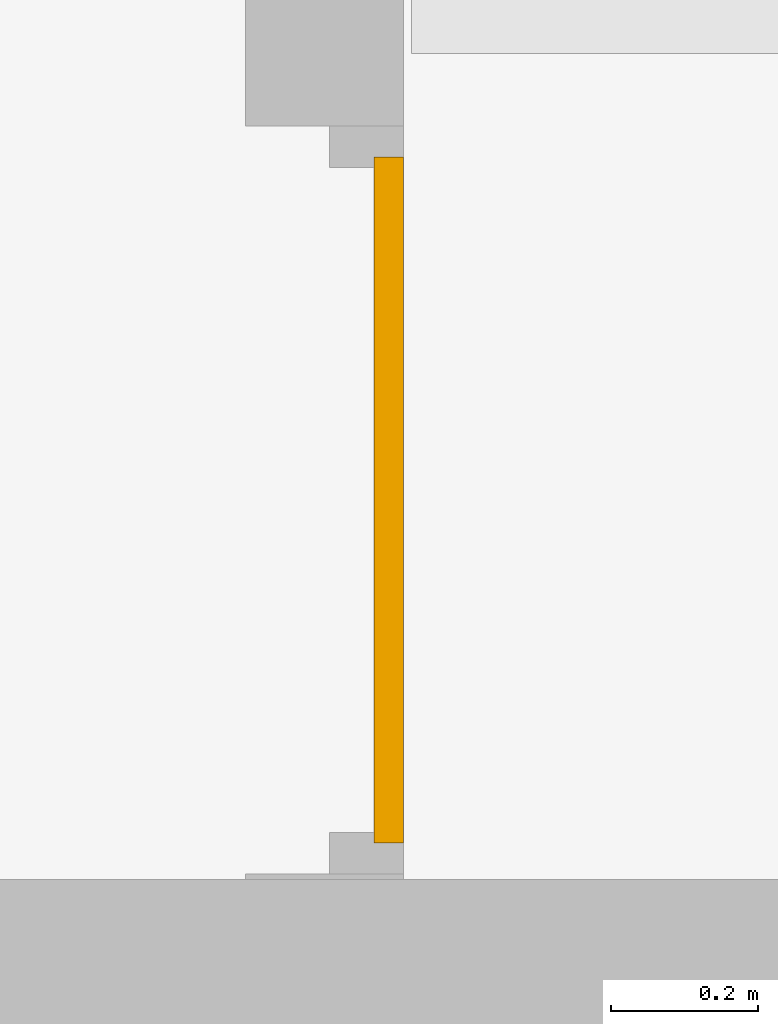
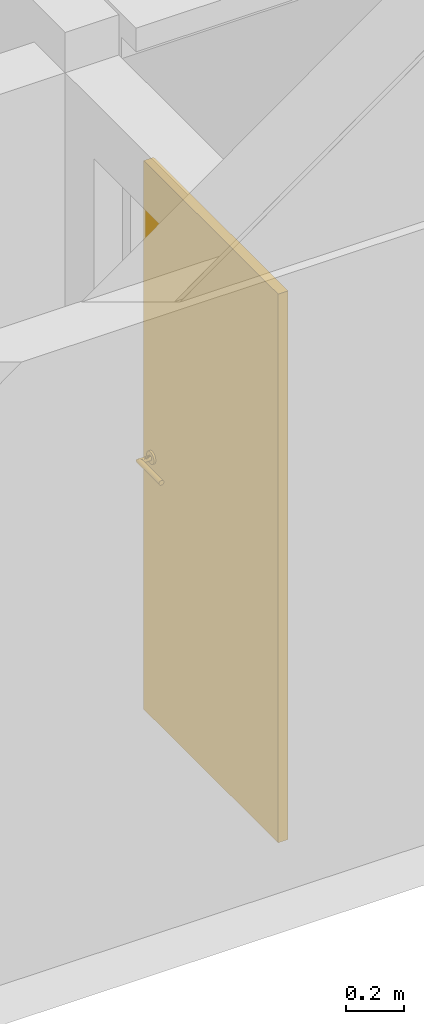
# One storey, part 11 of 22: 1 door.
"""IFC2X3 building model written with IfcOpenShell, lengths in millimetres."""

from ifc_helpers import new_model, entity, si_unit, converted_unit, derived_unit, money_unit, direction, frame, origin_with_axes, place, context, subcontext, project, spatial, faceted_brep, source, transform, mapped, material, type_object, type_shapes, element, save


model = new_model("IFC2X3")

# Units and contexts
model_context = context("Model", 3, precision=0.01, world=origin_with_axes(), true_north=direction((0.0, 1.0)))
body_context = subcontext(model_context, "Body", "Model", "MODEL_VIEW")
ifc_project = project(units=[si_unit("LENGTHUNIT", "METRE", prefix="MILLI"), si_unit("AREAUNIT", "SQUARE_METRE"), si_unit("VOLUMEUNIT", "CUBIC_METRE"), converted_unit("PLANEANGLEUNIT", "DEGREE", entity("IfcPlaneAngleMeasure", 0.0174532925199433), si_unit("PLANEANGLEUNIT", "RADIAN"), dimensions=[0, 0, 0, 0, 0, 0, 0]), money_unit("EUR"), converted_unit("TIMEUNIT", "Year", entity("IfcTimeMeasure", 31557600.0), si_unit("TIMEUNIT", "SECOND"), dimensions=[0, 0, 1, 0, 0, 0, 0]), si_unit("MASSUNIT", "GRAM", prefix="KILO"), si_unit("THERMODYNAMICTEMPERATUREUNIT", "DEGREE_CELSIUS"), si_unit("LUMINOUSINTENSITYUNIT", "LUMEN"), si_unit("ENERGYUNIT", "JOULE", prefix="MEGA"), derived_unit("THERMALCONDUCTANCEUNIT", [(si_unit("POWERUNIT", "WATT"), 1), (si_unit("LENGTHUNIT", "METRE"), -1), (si_unit("THERMODYNAMICTEMPERATUREUNIT", "KELVIN"), -1)]), derived_unit("SPECIFICHEATCAPACITYUNIT", [(si_unit("ENERGYUNIT", "JOULE"), 1), (si_unit("MASSUNIT", "GRAM", prefix="KILO"), -1), (si_unit("THERMODYNAMICTEMPERATUREUNIT", "KELVIN"), -1)]), derived_unit("MASSDENSITYUNIT", [(si_unit("MASSUNIT", "GRAM", prefix="KILO"), 1), (si_unit("VOLUMEUNIT", "CUBIC_METRE"), -1)])], contexts=[model_context])

# Site, building, storey
site_placement = place(None, origin_with_axes())
site = spatial("IfcSite", under=ifc_project, at=site_placement, Name="Site", CompositionType="ELEMENT")
building_placement = place(site_placement, origin_with_axes())
building = spatial("IfcBuilding", under=site, at=building_placement, Name="Naam gebouw", CompositionType="ELEMENT")
storey_placement = place(building_placement, frame((0.0, 0.0, 11150.0), z_axis=(0.0, 0.0, 1.0), x_axis=(1.0, 0.0, 0.0)))
storey = spatial("IfcBuildingStorey", under=building, at=storey_placement, Name="3e verdieping/dak N", CompositionType="ELEMENT", Elevation=11150.0)

# Door
ifc_material = material(Name="<Unnamed>")
door_style = type_object("IfcDoorStyle", Name="NLRS_32_deur stomp dicht_WID:Deur", ConstructionType="NOTDEFINED", OperationType="NOTDEFINED", ParameterTakesPrecedence=False, Sizeable=False)
shared_shape = source(origin_with_axes(), body_context, "Body", "Brep", [
    faceted_brep([(417.5000000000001, -65.96445239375, 1078.34936490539), (407.58819045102, -65.96445239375, 1090.34074173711), (410.0000000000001, -65.96445239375, 1091.33974596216), (411.4704761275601, -65.96445239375, 1075.85185434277), (410.0000000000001, -74.00000000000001, 1091.33974596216), (407.58819045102, -74.00000000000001, 1090.34074173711), (422.6776695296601, -65.96445239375, 1082.32233047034), (411.4704761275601, -74.00000000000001, 1075.85185434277), (417.5000000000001, -74.00000000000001, 1078.34936490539), (405.0, -65.96445239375, 1090.0), (412.0710678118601, -74.00000000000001, 1092.92893218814), (412.0710678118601, -65.96445239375, 1092.92893218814), (405.0, -74.00000000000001, 1090.0), (422.6776695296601, -74.00000000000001, 1082.32233047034), (405.0, -74.00000000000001, 1075.0), (405.0, -65.96445239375, 1075.0), (413.66025403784, -65.96445239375, 1095.0), (413.66025403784, -74.00000000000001, 1095.0), (402.41180954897, -74.00000000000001, 1090.34074173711), (402.41180954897, -65.96445239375, 1090.34074173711), (426.6506350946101, -65.96445239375, 1087.5), (426.6506350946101, -74.00000000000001, 1087.5), (398.52952387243, -74.00000000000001, 1075.85185434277), (398.52952387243, -65.96445239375, 1075.85185434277), (414.65925826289, -74.00000000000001, 1097.41180954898), (414.65925826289, -65.96445239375, 1097.41180954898), (400.0, -65.96445239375, 1091.33974596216), (400.0, -74.00000000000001, 1091.33974596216), (429.14814565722, -74.00000000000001, 1093.52952387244), (429.14814565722, -65.96445239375, 1093.52952387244), (392.5, -74.00000000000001, 1078.34936490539), (392.5, -65.96445239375, 1078.34936490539), (415.0000000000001, -74.00000000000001, 1100.0), (415.0000000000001, -65.96445239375, 1100.0), (397.92893218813, -65.96445239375, 1092.92893218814), (397.92893218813, -74.00000000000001, 1092.92893218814), (430.0000000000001, -65.96445239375, 1100.0), (430.0000000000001, -74.00000000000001, 1100.0), (387.32233047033, -74.00000000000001, 1082.32233047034), (387.32233047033, -65.96445239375, 1082.32233047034), (414.65925826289, -74.00000000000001, 1102.58819045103), (414.65925826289, -65.96445239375, 1102.58819045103), (396.3397459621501, -65.96445239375, 1095.0), (396.3397459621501, -74.00000000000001, 1095.0), (429.14814565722, -65.96445239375, 1106.47047612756), (429.14814565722, -74.00000000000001, 1106.47047612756), (383.3493649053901, -74.00000000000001, 1087.5), (383.3493649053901, -65.96445239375, 1087.5), (413.66025403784, -74.00000000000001, 1105.0), (413.66025403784, -65.96445239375, 1105.0), (395.34074173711, -65.96445239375, 1097.41180954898), (395.34074173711, -74.00000000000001, 1097.41180954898), (426.6506350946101, -65.96445239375, 1112.5), (426.6506350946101, -74.00000000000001, 1112.5), (380.8518543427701, -74.00000000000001, 1093.52952387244), (380.8518543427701, -65.96445239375, 1093.52952387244), (412.0710678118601, -65.96445239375, 1107.07106781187), (412.0710678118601, -74.00000000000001, 1107.07106781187), (395.0, -65.96445239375, 1100.0), (395.0, -74.00000000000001, 1100.0), (422.6776695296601, -65.96445239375, 1117.67766952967), (422.6776695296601, -74.00000000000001, 1117.67766952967), (380.0000000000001, -74.00000000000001, 1100.0), (380.0000000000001, -65.96445239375, 1100.0), (410.0000000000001, -74.00000000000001, 1108.66025403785), (410.0000000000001, -65.96445239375, 1108.66025403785), (395.34074173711, -65.96445239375, 1102.58819045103), (395.34074173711, -74.00000000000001, 1102.58819045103), (417.5000000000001, -74.00000000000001, 1121.65063509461), (417.5000000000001, -65.96445239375, 1121.65063509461), (380.8518543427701, -74.00000000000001, 1106.47047612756), (380.8518543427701, -65.96445239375, 1106.47047612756), (407.58819045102, -74.00000000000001, 1109.65925826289), (407.58819045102, -65.96445239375, 1109.65925826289), (396.3397459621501, -65.96445239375, 1105.0), (396.3397459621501, -74.00000000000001, 1105.0), (411.4704761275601, -74.00000000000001, 1124.14814565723), (411.4704761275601, -65.96445239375, 1124.14814565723), (383.3493649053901, -74.00000000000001, 1112.5), (383.3493649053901, -65.96445239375, 1112.5), (405.0, -74.00000000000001, 1110.0), (405.0, -65.96445239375, 1110.0), (397.92893218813, -65.96445239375, 1107.07106781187), (397.92893218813, -74.00000000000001, 1107.07106781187), (405.0, -65.96445239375, 1125.0), (405.0, -74.00000000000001, 1125.0), (387.32233047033, -74.00000000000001, 1117.67766952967), (387.32233047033, -65.96445239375, 1117.67766952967), (402.41180954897, -74.00000000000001, 1109.65925826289), (402.41180954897, -65.96445239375, 1109.65925826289), (400.0, -65.96445239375, 1108.66025403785), (400.0, -74.00000000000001, 1108.66025403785), (398.52952387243, -65.96445239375, 1124.14814565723), (398.52952387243, -74.00000000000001, 1124.14814565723), (392.5, -74.00000000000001, 1121.65063509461), (392.5, -65.96445239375, 1121.65063509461)], [[[0, 1, 2]], [[0, 3, 1]], [[4, 2, 1, 5]], [[0, 2, 6]], [[7, 3, 0, 8]], [[9, 1, 3]], [[10, 11, 2, 4]], [[5, 1, 9, 12]], [[5, 8, 4]], [[11, 6, 2]], [[6, 13, 8, 0]], [[14, 15, 3, 7]], [[8, 5, 7]], [[15, 9, 3]], [[16, 11, 10, 17]], [[10, 4, 13]], [[18, 12, 9, 19]], [[12, 7, 5]], [[4, 8, 13]], [[11, 20, 6]], [[21, 13, 6, 20]], [[22, 23, 15, 14]], [[14, 7, 12]], [[9, 15, 19]], [[16, 20, 11]], [[17, 10, 21]], [[16, 17, 24, 25]], [[21, 10, 13]], [[12, 18, 14]], [[26, 27, 18, 19]], [[28, 21, 20, 29]], [[22, 30, 31, 23]], [[23, 19, 15]], [[22, 14, 18]], [[20, 16, 25]], [[28, 17, 21]], [[17, 28, 24]], [[25, 24, 32, 33]], [[34, 35, 27, 26]], [[27, 22, 18]], [[23, 26, 19]], [[20, 25, 29]], [[28, 29, 36, 37]], [[27, 30, 22]], [[30, 38, 39, 31]], [[26, 23, 31]], [[24, 28, 37]], [[37, 32, 24]], [[40, 41, 33, 32]], [[25, 33, 29]], [[34, 42, 43, 35]], [[30, 27, 35]], [[26, 31, 34]], [[36, 29, 33]], [[37, 36, 44, 45]], [[38, 30, 35]], [[39, 38, 46, 47]], [[39, 34, 31]], [[37, 45, 32]], [[48, 49, 41, 40]], [[36, 33, 41]], [[40, 32, 45]], [[34, 39, 42]], [[43, 42, 50, 51]], [[35, 43, 38]], [[41, 44, 36]], [[45, 44, 52, 53]], [[43, 46, 38]], [[54, 55, 47, 46]], [[42, 39, 47]], [[56, 49, 48, 57]], [[49, 44, 41]], [[53, 48, 40]], [[53, 40, 45]], [[42, 47, 50]], [[51, 50, 58, 59]], [[43, 51, 54]], [[44, 49, 52]], [[60, 61, 53, 52]], [[46, 43, 54]], [[62, 63, 55, 54]], [[50, 47, 55]], [[49, 56, 52]], [[48, 53, 57]], [[56, 57, 64, 65]], [[58, 50, 55]], [[66, 67, 59, 58]], [[51, 59, 62]], [[54, 51, 62]], [[68, 61, 60, 69]], [[57, 53, 61]], [[52, 56, 60]], [[70, 71, 63, 62]], [[63, 58, 55]], [[57, 61, 64]], [[65, 64, 72, 73]], [[56, 65, 60]], [[74, 75, 67, 66]], [[59, 67, 70]], [[66, 58, 63]], [[62, 59, 70]], [[68, 64, 61]], [[65, 69, 60]], [[76, 68, 69, 77]], [[70, 78, 79, 71]], [[71, 66, 63]], [[68, 72, 64]], [[72, 80, 81, 73]], [[73, 69, 65]], [[74, 82, 83, 75]], [[75, 78, 67]], [[74, 66, 71]], [[67, 78, 70]], [[68, 76, 72]], [[69, 73, 77]], [[76, 77, 84, 85]], [[78, 86, 87, 79]], [[79, 74, 71]], [[80, 72, 76]], [[88, 89, 81, 80]], [[81, 77, 73]], [[82, 74, 87]], [[83, 82, 90, 91]], [[83, 86, 75]], [[75, 86, 78]], [[84, 77, 81]], [[85, 84, 92, 93]], [[85, 80, 76]], [[87, 86, 94, 95]], [[74, 79, 87]], [[91, 90, 89, 88]], [[81, 89, 84]], [[80, 85, 88]], [[87, 95, 82]], [[95, 90, 82]], [[91, 94, 83]], [[86, 83, 94]], [[92, 84, 89]], [[93, 92, 95, 94]], [[93, 88, 85]], [[90, 92, 89]], [[93, 91, 88]], [[90, 95, 92]], [[91, 93, 94]]]),
    faceted_brep([(405.0, -74.00000000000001, 1090.0), (407.58819045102, -74.00000000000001, 1090.34074173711), (410.0000000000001, -74.00000000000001, 1091.33974596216), (412.0710678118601, -74.00000000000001, 1092.92893218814), (413.66025403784, -74.00000000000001, 1095.0), (414.65925826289, -74.00000000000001, 1097.41180954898), (415.0000000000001, -74.00000000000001, 1100.0), (414.65925826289, -74.00000000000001, 1102.58819045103), (413.66025403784, -74.00000000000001, 1105.0), (412.0710678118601, -74.00000000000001, 1107.07106781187), (410.0000000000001, -74.00000000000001, 1108.66025403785), (407.58819045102, -74.00000000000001, 1109.65925826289), (405.0, -74.00000000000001, 1110.0), (402.41180954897, -74.00000000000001, 1109.65925826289), (400.0, -74.00000000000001, 1108.66025403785), (397.92893218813, -74.00000000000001, 1107.07106781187), (396.3397459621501, -74.00000000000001, 1105.0), (395.34074173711, -74.00000000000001, 1102.58819045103), (395.0, -74.00000000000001, 1100.0), (395.34074173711, -74.00000000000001, 1097.41180954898), (396.3397459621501, -74.00000000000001, 1095.0), (397.92893218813, -74.00000000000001, 1092.92893218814), (400.0, -74.00000000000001, 1091.33974596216), (402.41180954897, -74.00000000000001, 1090.34074173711), (402.41180954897, -26.58819045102, 1090.34074173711), (405.0, -24.0, 1090.0), (407.58819045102, -21.41180954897, 1090.34074173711), (412.0710678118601, -16.92893218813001, 1092.92893218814), (414.65925826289, -14.34074173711, 1097.41180954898), (415.0000000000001, -14.0, 1100.0), (414.65925826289, -14.34074173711, 1102.58819045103), (412.0710678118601, -16.92893218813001, 1107.07106781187), (407.58819045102, -21.41180954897, 1109.65925826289), (405.0, -24.0, 1110.0), (402.41180954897, -26.58819045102, 1109.65925826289), (400.0, -29.0, 1108.66025403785), (397.92893218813, -31.07106781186, 1107.07106781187), (396.3397459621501, -32.66025403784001, 1105.0), (395.34074173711, -33.65925826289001, 1102.58819045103), (395.0, -34.0, 1100.0), (395.34074173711, -33.65925826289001, 1097.41180954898), (396.3397459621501, -32.66025403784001, 1095.0), (397.92893218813, -31.07106781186, 1092.92893218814), (400.0, -29.0, 1091.33974596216), (410.0000000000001, -19.0, 1091.33974596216), (413.66025403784, -15.33974596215, 1095.0), (255.0, -14.34074173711, 1097.41180954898), (255.0, -14.0, 1100.0), (255.0, -14.34074173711, 1102.58819045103), (413.66025403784, -15.33974596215, 1105.0), (410.0000000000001, -19.0, 1108.66025403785), (255.0, -32.66025403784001, 1105.0), (255.0, -33.65925826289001, 1102.58819045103), (255.0, -34.0, 1100.0), (255.0, -33.65925826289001, 1097.41180954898), (255.0, -32.66025403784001, 1095.0), (255.0, -29.0, 1091.33974596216), (255.0, -26.58819045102, 1090.34074173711), (255.0, -24.0, 1090.0), (255.0, -21.41180954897, 1090.34074173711), (255.0, -19.0, 1091.33974596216), (255.0, -16.92893218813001, 1092.92893218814), (255.0, -15.33974596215, 1095.0), (255.0, -31.07106781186, 1092.92893218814), (255.0, -31.07106781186, 1107.07106781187), (255.0, -29.0, 1108.66025403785), (255.0, -26.58819045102, 1109.65925826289), (255.0, -24.0, 1110.0), (255.0, -21.41180954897, 1109.65925826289), (255.0, -19.0, 1108.66025403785), (255.0, -16.92893218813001, 1107.07106781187), (255.0, -15.33974596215, 1105.0)], [[[0, 1, 2, 3, 4, 5, 6, 7, 8, 9, 10, 11, 12, 13, 14, 15, 16, 17, 18, 19, 20, 21, 22, 23]], [[1, 0, 24]], [[2, 1, 25]], [[25, 3, 2]], [[26, 4, 3]], [[5, 4, 27]], [[28, 29, 6, 5]], [[29, 30, 7, 6]], [[31, 8, 7]], [[8, 32, 9]], [[9, 33, 10]], [[33, 11, 10]], [[11, 34, 12]], [[12, 35, 13]], [[14, 13, 36]], [[37, 15, 14]], [[15, 37, 16]], [[16, 37, 38, 17]], [[18, 17, 38, 39]], [[19, 18, 39, 40]], [[20, 19, 40, 41]], [[20, 41, 21]], [[41, 22, 21]], [[23, 22, 42]], [[43, 0, 23]], [[0, 43, 24]], [[24, 25, 1]], [[25, 26, 3]], [[26, 44, 4]], [[44, 27, 4]], [[5, 27, 45]], [[28, 46, 47, 29]], [[28, 5, 45]], [[30, 29, 47, 48]], [[30, 49, 7]], [[50, 8, 31]], [[7, 49, 31]], [[32, 8, 50]], [[33, 9, 32]], [[11, 33, 34]], [[34, 35, 12]], [[13, 35, 36]], [[14, 36, 37]], [[38, 37, 51, 52]], [[39, 38, 52, 53]], [[39, 53, 54, 40]], [[40, 54, 55, 41]], [[22, 41, 42]], [[23, 42, 43]], [[43, 56, 57, 24]], [[58, 25, 24, 57]], [[26, 25, 58, 59]], [[26, 59, 60, 44]], [[44, 60, 61, 27]], [[27, 61, 62, 45]], [[45, 62, 46, 28]], [[60, 59, 58, 57, 56, 63, 55, 54, 53, 52, 51, 64, 65, 66, 67, 68, 69, 70, 71, 48, 47, 46, 62, 61]], [[49, 30, 48, 71]], [[50, 31, 70, 69]], [[31, 49, 71, 70]], [[32, 50, 69, 68]], [[68, 67, 33, 32]], [[34, 33, 67, 66]], [[35, 34, 66, 65]], [[36, 35, 65, 64]], [[37, 36, 64, 51]], [[41, 55, 63, 42]], [[42, 63, 56, 43]]]),
    faceted_brep([(410.0000000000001, -122.03554760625, 1091.33974596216), (407.58819045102, -122.03554760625, 1090.34074173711), (417.4999999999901, -122.03554760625, 1078.34936490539), (410.0000000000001, -114.0, 1091.33974596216), (407.58819045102, -114.0, 1090.34074173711), (411.4704761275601, -122.03554760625, 1075.85185434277), (422.6776695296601, -122.03554760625, 1082.32233047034), (412.0710678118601, -122.03554760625, 1092.92893218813), (412.0710678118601, -114.0, 1092.92893218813), (417.4999999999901, -114.0, 1078.34936490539), (405.0, -114.0, 1090.0), (405.0, -122.03554760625, 1090.0), (411.4704761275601, -114.0, 1075.85185434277), (422.6776695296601, -114.0, 1082.32233047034), (413.66025403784, -114.0, 1095.0), (413.66025403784, -122.03554760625, 1095.0), (402.41180954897, -122.03554760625, 1090.34074173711), (402.41180954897, -114.0, 1090.34074173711), (405.0, -122.03554760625, 1075.0), (405.0, -114.0, 1075.0), (426.6506350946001, -122.03554760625, 1087.5), (426.6506350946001, -114.0, 1087.5), (414.65925826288, -122.03554760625, 1097.41180954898), (414.65925826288, -114.0, 1097.41180954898), (400.0, -114.0, 1091.33974596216), (400.0, -122.03554760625, 1091.33974596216), (398.52952387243, -122.03554760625, 1075.85185434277), (398.52952387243, -114.0, 1075.85185434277), (429.14814565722, -122.03554760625, 1093.52952387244), (429.14814565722, -114.0, 1093.52952387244), (415.0000000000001, -122.03554760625, 1100.0), (415.0000000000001, -114.0, 1100.0), (397.92893218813, -114.0, 1092.92893218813), (397.92893218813, -122.03554760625, 1092.92893218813), (392.4999999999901, -122.03554760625, 1078.34936490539), (392.4999999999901, -114.0, 1078.34936490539), (430.0000000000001, -122.03554760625, 1100.0), (430.0000000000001, -114.0, 1100.0), (414.65925826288, -122.03554760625, 1102.58819045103), (414.65925826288, -114.0, 1102.58819045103), (396.3397459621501, -114.0, 1095.0), (396.3397459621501, -122.03554760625, 1095.0), (387.32233047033, -122.03554760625, 1082.32233047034), (387.32233047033, -114.0, 1082.32233047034), (429.14814565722, -114.0, 1106.47047612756), (429.14814565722, -122.03554760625, 1106.47047612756), (413.66025403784, -122.03554760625, 1105.0), (413.66025403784, -114.0, 1105.0), (395.3407417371, -122.03554760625, 1097.41180954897), (395.3407417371, -114.0, 1097.41180954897), (383.3493649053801, -114.0, 1087.5), (383.3493649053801, -122.03554760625, 1087.5), (426.6506350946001, -114.0, 1112.5), (426.6506350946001, -122.03554760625, 1112.5), (412.0710678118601, -114.0, 1107.07106781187), (412.0710678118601, -122.03554760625, 1107.07106781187), (380.8518543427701, -114.0, 1093.52952387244), (395.0, -122.03554760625, 1100.0), (395.0, -114.0, 1100.0), (380.8518543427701, -122.03554760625, 1093.52952387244), (422.6776695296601, -114.0, 1117.67766952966), (422.6776695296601, -122.03554760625, 1117.67766952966), (410.0000000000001, -122.03554760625, 1108.66025403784), (410.0000000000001, -114.0, 1108.66025403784), (380.0000000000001, -114.0, 1100.0), (395.3407417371, -114.0, 1102.58819045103), (395.3407417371, -122.03554760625, 1102.58819045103), (380.0000000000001, -122.03554760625, 1100.0), (417.4999999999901, -122.03554760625, 1121.65063509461), (417.4999999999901, -114.0, 1121.65063509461), (407.58819045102, -122.03554760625, 1109.65925826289), (407.58819045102, -114.0, 1109.65925826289), (380.8518543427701, -114.0, 1106.47047612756), (396.3397459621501, -114.0, 1105.0), (396.3397459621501, -122.03554760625, 1105.0), (380.8518543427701, -122.03554760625, 1106.47047612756), (411.4704761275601, -122.03554760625, 1124.14814565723), (411.4704761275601, -114.0, 1124.14814565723), (405.0, -122.03554760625, 1110.0), (405.0, -114.0, 1110.0), (383.3493649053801, -114.0, 1112.5), (397.92893218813, -114.0, 1107.07106781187), (397.92893218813, -122.03554760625, 1107.07106781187), (383.3493649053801, -122.03554760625, 1112.5), (405.0, -122.03554760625, 1125.0), (405.0, -114.0, 1125.0), (402.41180954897, -122.03554760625, 1109.65925826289), (402.41180954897, -114.0, 1109.65925826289), (387.32233047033, -114.0, 1117.67766952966), (400.0, -122.03554760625, 1108.66025403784), (400.0, -114.0, 1108.66025403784), (387.32233047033, -122.03554760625, 1117.67766952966), (398.52952387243, -114.0, 1124.14814565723), (398.52952387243, -122.03554760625, 1124.14814565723), (392.4999999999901, -114.0, 1121.65063509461), (392.4999999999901, -122.03554760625, 1121.65063509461)], [[[0, 1, 2]], [[1, 0, 3, 4]], [[1, 5, 2]], [[6, 0, 2]], [[0, 7, 8, 3]], [[3, 9, 4]], [[10, 11, 1, 4]], [[5, 1, 11]], [[9, 2, 5, 12]], [[0, 6, 7]], [[9, 13, 6, 2]], [[14, 8, 7, 15]], [[13, 3, 8]], [[13, 9, 3]], [[12, 4, 9]], [[16, 11, 10, 17]], [[4, 12, 10]], [[5, 11, 18]], [[12, 5, 18, 19]], [[6, 20, 7]], [[20, 6, 13, 21]], [[21, 8, 14]], [[7, 20, 15]], [[22, 23, 14, 15]], [[13, 8, 21]], [[16, 18, 11]], [[19, 17, 10]], [[16, 17, 24, 25]], [[10, 12, 19]], [[18, 26, 27, 19]], [[28, 20, 21, 29]], [[21, 14, 29]], [[22, 15, 20]], [[30, 31, 23, 22]], [[23, 29, 14]], [[18, 16, 26]], [[17, 19, 27]], [[17, 27, 24]], [[25, 24, 32, 33]], [[16, 25, 26]], [[26, 34, 35, 27]], [[28, 22, 20]], [[36, 28, 29, 37]], [[30, 38, 39, 31]], [[23, 31, 37]], [[28, 30, 22]], [[37, 29, 23]], [[27, 35, 24]], [[32, 24, 35]], [[32, 40, 41, 33]], [[33, 34, 25]], [[34, 26, 25]], [[34, 42, 43, 35]], [[30, 28, 36]], [[44, 45, 36, 37]], [[38, 30, 36]], [[38, 46, 47, 39]], [[44, 31, 39]], [[31, 44, 37]], [[32, 35, 43]], [[43, 40, 32]], [[48, 41, 40, 49]], [[41, 42, 33]], [[34, 33, 42]], [[50, 43, 42, 51]], [[52, 53, 45, 44]], [[36, 45, 38]], [[38, 45, 46]], [[54, 47, 46, 55]], [[39, 47, 52]], [[44, 39, 52]], [[43, 50, 40]], [[48, 51, 41]], [[56, 49, 40]], [[57, 48, 49, 58]], [[51, 42, 41]], [[50, 51, 59, 56]], [[52, 60, 61, 53]], [[53, 46, 45]], [[54, 52, 47]], [[53, 55, 46]], [[62, 63, 54, 55]], [[56, 40, 50]], [[59, 51, 48]], [[64, 49, 56]], [[59, 48, 57]], [[64, 58, 49]], [[57, 58, 65, 66]], [[56, 59, 67, 64]], [[60, 52, 54]], [[68, 61, 60, 69]], [[61, 55, 53]], [[70, 71, 63, 62]], [[63, 60, 54]], [[61, 62, 55]], [[59, 57, 67]], [[72, 58, 64]], [[72, 65, 58]], [[66, 65, 73, 74]], [[67, 57, 66]], [[67, 75, 72, 64]], [[61, 68, 62]], [[60, 63, 69]], [[76, 68, 69, 77]], [[70, 78, 79, 71]], [[63, 71, 69]], [[62, 68, 70]], [[72, 80, 65]], [[65, 80, 73]], [[73, 81, 82, 74]], [[75, 66, 74]], [[67, 66, 75]], [[75, 83, 80, 72]], [[76, 70, 68]], [[71, 77, 69]], [[84, 76, 77, 85]], [[70, 76, 78]], [[79, 78, 86, 87]], [[77, 71, 79]], [[80, 88, 73]], [[73, 88, 81]], [[89, 82, 81, 90]], [[91, 74, 82]], [[75, 74, 83]], [[83, 91, 88, 80]], [[78, 76, 84]], [[77, 79, 85]], [[92, 93, 84, 85]], [[84, 86, 78]], [[86, 89, 90, 87]], [[87, 85, 79]], [[94, 81, 88]], [[82, 89, 95]], [[81, 94, 90]], [[91, 83, 74]], [[82, 95, 91]], [[94, 88, 91, 95]], [[94, 95, 93, 92]], [[86, 84, 93]], [[85, 87, 92]], [[86, 93, 89]], [[87, 90, 92]], [[93, 95, 89]], [[94, 92, 90]]]),
    faceted_brep([(410.0000000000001, -114.0, 1091.33974596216), (407.58819045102, -114.0, 1090.34074173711), (405.0, -114.0, 1090.0), (402.41180954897, -114.0, 1090.34074173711), (400.0, -114.0, 1091.33974596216), (397.92893218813, -114.0, 1092.92893218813), (396.3397459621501, -114.0, 1095.0), (395.3407417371, -114.0, 1097.41180954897), (395.0, -114.0, 1100.0), (395.3407417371, -114.0, 1102.58819045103), (396.3397459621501, -114.0, 1105.0), (397.92893218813, -114.0, 1107.07106781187), (400.0, -114.0, 1108.66025403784), (402.41180954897, -114.0, 1109.65925826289), (405.0, -114.0, 1110.0), (407.58819045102, -114.0, 1109.65925826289), (410.0000000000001, -114.0, 1108.66025403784), (412.0710678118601, -114.0, 1107.07106781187), (413.66025403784, -114.0, 1105.0), (414.65925826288, -114.0, 1102.58819045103), (415.0000000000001, -114.0, 1100.0), (414.65925826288, -114.0, 1097.41180954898), (413.66025403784, -114.0, 1095.0), (412.0710678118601, -114.0, 1092.92893218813), (405.0, -164.0, 1090.0), (402.41180954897, -161.41180954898, 1090.34074173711), (400.0, -159.0, 1091.33974596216), (397.92893218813, -156.92893218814, 1092.92893218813), (396.3397459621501, -155.33974596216, 1095.0), (395.3407417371, -154.3407417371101, 1097.41180954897), (395.0, -154.0, 1100.0), (395.3407417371, -154.3407417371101, 1102.58819045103), (396.3397459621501, -155.33974596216, 1105.0), (397.92893218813, -156.92893218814, 1107.07106781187), (400.0, -159.0, 1108.66025403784), (402.41180954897, -161.41180954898, 1109.65925826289), (405.0, -164.0, 1110.0), (407.58819045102, -166.58819045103, 1109.65925826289), (412.0710678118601, -171.07106781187, 1107.07106781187), (414.65925826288, -173.65925826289, 1102.58819045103), (415.0000000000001, -174.0, 1100.0), (414.65925826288, -173.65925826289, 1097.41180954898), (412.0710678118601, -171.07106781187, 1092.92893218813), (407.58819045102, -166.58819045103, 1090.34074173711), (255.0, -155.33974596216, 1095.0), (255.0, -154.3407417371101, 1097.41180954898), (255.0, -154.0, 1100.0), (255.0, -154.3407417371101, 1102.58819045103), (255.0, -155.33974596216, 1105.0), (410.0000000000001, -169.0, 1108.66025403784), (413.66025403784, -172.66025403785, 1105.0), (255.0, -173.65925826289, 1102.58819045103), (255.0, -174.0, 1100.0), (255.0, -173.65925826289, 1097.41180954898), (413.66025403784, -172.66025403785, 1095.0), (410.0000000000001, -169.0, 1091.33974596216), (255.0, -161.41180954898, 1090.34074173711), (255.0, -164.0, 1090.0), (255.0, -159.0, 1091.33974596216), (255.0, -156.92893218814, 1092.92893218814), (255.0, -166.58819045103, 1090.34074173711), (255.0, -169.0, 1091.33974596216), (255.0, -171.07106781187, 1092.92893218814), (255.0, -172.66025403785, 1095.0), (255.0, -172.66025403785, 1105.0), (255.0, -171.07106781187, 1107.07106781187), (255.0, -169.0, 1108.66025403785), (255.0, -166.58819045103, 1109.65925826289), (255.0, -164.0, 1110.0), (255.0, -161.41180954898, 1109.65925826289), (255.0, -159.0, 1108.66025403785), (255.0, -156.92893218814, 1107.07106781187)], [[[0, 1, 2, 3, 4, 5, 6, 7, 8, 9, 10, 11, 12, 13, 14, 15, 16, 17, 18, 19, 20, 21, 22, 23]], [[24, 1, 0]], [[25, 2, 1]], [[3, 2, 26]], [[27, 4, 3]], [[5, 4, 28]], [[5, 28, 6]], [[28, 29, 7, 6]], [[29, 30, 8, 7]], [[30, 31, 9, 8]], [[31, 32, 10, 9]], [[10, 32, 11]], [[12, 11, 32]], [[33, 13, 12]], [[13, 34, 14]], [[14, 35, 15]], [[16, 15, 36]], [[16, 36, 17]], [[17, 37, 18]], [[19, 18, 38]], [[20, 19, 39, 40]], [[20, 40, 41, 21]], [[42, 22, 21]], [[23, 22, 43]], [[0, 23, 24]], [[1, 24, 25]], [[25, 26, 2]], [[26, 27, 3]], [[27, 28, 4]], [[44, 45, 29, 28]], [[45, 46, 30, 29]], [[46, 47, 31, 30]], [[47, 48, 32, 31]], [[32, 33, 12]], [[33, 34, 13]], [[14, 34, 35]], [[35, 36, 15]], [[37, 17, 36]], [[49, 18, 37]], [[38, 18, 49]], [[38, 50, 19]], [[19, 50, 39]], [[51, 52, 40, 39]], [[52, 53, 41, 40]], [[54, 21, 41]], [[22, 42, 55]], [[54, 42, 21]], [[22, 55, 43]], [[23, 43, 24]], [[56, 25, 24, 57]], [[56, 58, 26, 25]], [[58, 59, 27, 26]], [[59, 44, 28, 27]], [[57, 60, 61, 62, 63, 53, 52, 51, 64, 65, 66, 67, 68, 69, 70, 71, 48, 47, 46, 45, 44, 59, 58, 56]], [[48, 71, 33, 32]], [[71, 70, 34, 33]], [[70, 69, 35, 34]], [[68, 36, 35, 69]], [[37, 36, 68, 67]], [[67, 66, 49, 37]], [[66, 65, 38, 49]], [[65, 64, 50, 38]], [[64, 51, 39, 50]], [[53, 63, 54, 41]], [[62, 61, 55, 42]], [[63, 62, 42, 54]], [[61, 60, 43, 55]], [[60, 57, 24, 43]]]),
    faceted_brep([(465.0, -114.0, 0.0), (-465.0, -114.0, 0.0), (-465.0, -74.00000000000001, 0.0), (465.0, -74.00000000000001, 0.0), (-465.0, -114.0, 2315.0), (465.0, -114.0, 2315.0), (-465.0, -74.00000000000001, 2315.0), (465.0, -74.00000000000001, 2315.0)], [[[0, 1, 2, 3]], [[4, 1, 0, 5]], [[6, 2, 1, 4]], [[7, 3, 2, 6]], [[5, 0, 3, 7]], [[5, 7, 6, 4]]]),
])
type_shapes(door_style, [shared_shape])
door_placement = place(storey_placement, frame((33598.00000005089, 33440.31796988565, 310.0000000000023), z_axis=(0.0, 0.0, 1.0), x_axis=(0.0, 1.0, 0.0)))
element("IfcDoor", 1, at=door_placement, inside=storey, type_object=door_style, material=ifc_material, Name="NLRS_32_deur stomp dicht_WID:Deur", ObjectType="DOOR", context=body_context, shape_type="MappedRepresentation", body=[
    mapped(shared_shape, transform((0.0, 0.0, 0.0))),
])

save(model, "model.ifc")
